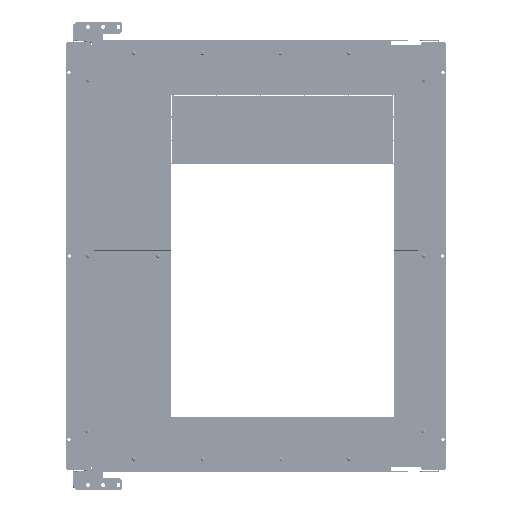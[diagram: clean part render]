
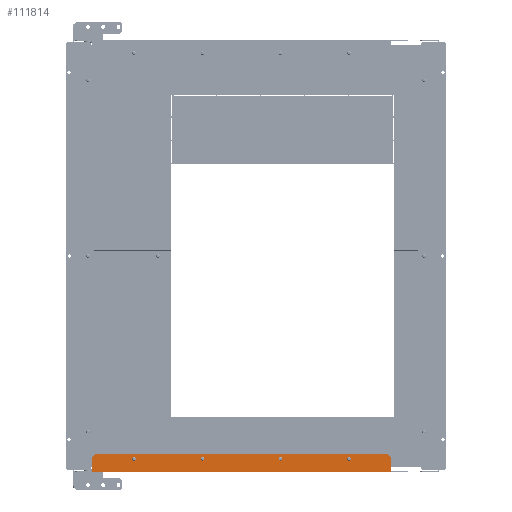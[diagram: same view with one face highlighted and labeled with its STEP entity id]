
A CAD part, left-side view. The second image highlights one B-rep face of the part: STEP entity #111814.
In plain terms, the highlighted planar face has unit normal (-1, 0, 0).
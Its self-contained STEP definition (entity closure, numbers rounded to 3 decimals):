
#1155 = DIRECTION ( 'NONE',  ( 1., 0., 0. ) ) ;
#2260 = AXIS2_PLACEMENT_3D ( 'NONE', #16897, #17458, #27356 ) ;
#3025 = VECTOR ( 'NONE', #58283, 1000. ) ;
#4673 = ORIENTED_EDGE ( 'NONE', *, *, #97777, .T. ) ;
#4838 = EDGE_CURVE ( 'NONE', #8660, #7920, #63025, .T. ) ;
#5697 = AXIS2_PLACEMENT_3D ( 'NONE', #82629, #1155, #107730 ) ;
#6283 = VERTEX_POINT ( 'NONE', #25080 ) ;
#6367 = CARTESIAN_POINT ( 'NONE',  ( -158., -496., -329.5 ) ) ;
#6769 = ORIENTED_EDGE ( 'NONE', *, *, #62353, .T. ) ;
#6876 = CARTESIAN_POINT ( 'NONE',  ( -158., -6.5, -351.5 ) ) ;
#7404 = CARTESIAN_POINT ( 'NONE',  ( -158., -427.5, -332. ) ) ;
#7920 = VERTEX_POINT ( 'NONE', #82823 ) ;
#8330 = EDGE_CURVE ( 'NONE', #54205, #26136, #10398, .T. ) ;
#8660 = VERTEX_POINT ( 'NONE', #78259 ) ;
#9324 = EDGE_LOOP ( 'NONE', ( #36339, #24867 ) ) ;
#9906 = FACE_OUTER_BOUND ( 'NONE', #34763, .T. ) ;
#10398 = LINE ( 'NONE', #53455, #70279 ) ;
#11552 = EDGE_CURVE ( 'NONE', #7920, #8660, #84803, .T. ) ;
#12235 = ORIENTED_EDGE ( 'NONE', *, *, #8330, .T. ) ;
#12660 = DIRECTION ( 'NONE',  ( -1., 0., 0. ) ) ;
#14099 = VECTOR ( 'NONE', #58027, 1000. ) ;
#14764 = AXIS2_PLACEMENT_3D ( 'NONE', #78320, #33496, #103365 ) ;
#15185 = LINE ( 'NONE', #41372, #44814 ) ;
#16021 = CARTESIAN_POINT ( 'NONE',  ( -158., -116.625, -219.375 ) ) ;
#16157 = CARTESIAN_POINT ( 'NONE',  ( -158., -189.383, -329.665 ) ) ;
#16897 = CARTESIAN_POINT ( 'NONE',  ( -158., -251.25, -354. ) ) ;
#17419 = EDGE_CURVE ( 'NONE', #35375, #61278, #66767, .T. ) ;
#17458 = DIRECTION ( 'NONE',  ( 1., 0., 0. ) ) ;
#19113 = VERTEX_POINT ( 'NONE', #16157 ) ;
#19271 = VECTOR ( 'NONE', #49215, 1000. ) ;
#20078 = EDGE_CURVE ( 'NONE', #78578, #61278, #43793, .T. ) ;
#21149 = EDGE_LOOP ( 'NONE', ( #61150, #75082 ) ) ;
#21730 = EDGE_CURVE ( 'NONE', #89817, #35375, #64609, .T. ) ;
#23370 = ORIENTED_EDGE ( 'NONE', *, *, #4838, .F. ) ;
#24867 = ORIENTED_EDGE ( 'NONE', *, *, #104512, .T. ) ;
#25080 = CARTESIAN_POINT ( 'NONE',  ( -158., -185.617, -334.335 ) ) ;
#25410 = DIRECTION ( 'NONE',  ( 0., 1., 0. ) ) ;
#25797 = ORIENTED_EDGE ( 'NONE', *, *, #20078, .F. ) ;
#26136 = VERTEX_POINT ( 'NONE', #6367 ) ;
#27356 = DIRECTION ( 'NONE',  ( 0., 0., 1. ) ) ;
#29013 = ORIENTED_EDGE ( 'NONE', *, *, #71225, .T. ) ;
#29447 = DIRECTION ( 'NONE',  ( 0., 1., 0. ) ) ;
#30660 = VERTEX_POINT ( 'NONE', #40898 ) ;
#31121 = CARTESIAN_POINT ( 'NONE',  ( -158., -6.5, -354. ) ) ;
#32503 = CARTESIAN_POINT ( 'NONE',  ( -158., -75., -332. ) ) ;
#32649 = EDGE_CURVE ( 'NONE', #74631, #95618, #91217, .T. ) ;
#32913 = DIRECTION ( 'NONE',  ( 0., 1., 0. ) ) ;
#33345 = AXIS2_PLACEMENT_3D ( 'NONE', #32503, #101240, #101815 ) ;
#33496 = DIRECTION ( 'NONE',  ( 1., 0., 0. ) ) ;
#33639 = EDGE_CURVE ( 'NONE', #54205, #78578, #15185, .T. ) ;
#34332 = CARTESIAN_POINT ( 'NONE',  ( -158., -11.5, -324.5 ) ) ;
#34598 = VERTEX_POINT ( 'NONE', #111566 ) ;
#34718 = EDGE_LOOP ( 'NONE', ( #29013, #6769 ) ) ;
#34763 = EDGE_LOOP ( 'NONE', ( #25797, #72431, #12235, #84721, #4673, #43807, #36089, #107643 ) ) ;
#34938 = FACE_BOUND ( 'NONE', #9324, .T. ) ;
#35155 = CARTESIAN_POINT ( 'NONE',  ( -158., -6.5, -329.5 ) ) ;
#35375 = VERTEX_POINT ( 'NONE', #6876 ) ;
#36089 = ORIENTED_EDGE ( 'NONE', *, *, #21730, .T. ) ;
#36339 = ORIENTED_EDGE ( 'NONE', *, *, #103776, .T. ) ;
#39910 = VERTEX_POINT ( 'NONE', #34332 ) ;
#40165 = VECTOR ( 'NONE', #55879, 1000. ) ;
#40898 = CARTESIAN_POINT ( 'NONE',  ( -158., -425.293, -334.032 ) ) ;
#41372 = CARTESIAN_POINT ( 'NONE',  ( -158., -496., -351.5 ) ) ;
#41641 = LINE ( 'NONE', #112710, #106643 ) ;
#41897 = CIRCLE ( 'NONE', #107019, 3. ) ;
#43227 = DIRECTION ( 'NONE',  ( 0., 1., 0. ) ) ;
#43793 = LINE ( 'NONE', #61292, #103856 ) ;
#43807 = ORIENTED_EDGE ( 'NONE', *, *, #97808, .T. ) ;
#44814 = VECTOR ( 'NONE', #50683, 1000. ) ;
#46272 = CIRCLE ( 'NONE', #62978, 3. ) ;
#47414 = EDGE_LOOP ( 'NONE', ( #63285, #23370 ) ) ;
#47566 = CARTESIAN_POINT ( 'NONE',  ( -158., -75., -332. ) ) ;
#47668 = AXIS2_PLACEMENT_3D ( 'NONE', #47566, #12660, #84209 ) ;
#49215 = DIRECTION ( 'NONE',  ( 0., 0.707, -0.707 ) ) ;
#50683 = DIRECTION ( 'NONE',  ( 0., 0., -1. ) ) ;
#51734 = CIRCLE ( 'NONE', #53553, 3. ) ;
#53455 = CARTESIAN_POINT ( 'NONE',  ( -158., -496., -354. ) ) ;
#53553 = AXIS2_PLACEMENT_3D ( 'NONE', #88954, #54010, #89532 ) ;
#53702 = CARTESIAN_POINT ( 'NONE',  ( -158., -312.907, -334.149 ) ) ;
#53705 = EDGE_CURVE ( 'NONE', #26136, #72224, #59450, .T. ) ;
#53894 = CARTESIAN_POINT ( 'NONE',  ( -158., -315., -332. ) ) ;
#54010 = DIRECTION ( 'NONE',  ( 1., 0., 0. ) ) ;
#54205 = VERTEX_POINT ( 'NONE', #115198 ) ;
#55832 = EDGE_CURVE ( 'NONE', #95618, #74631, #92689, .T. ) ;
#55879 = DIRECTION ( 'NONE',  ( 0., 0., -1. ) ) ;
#58027 = DIRECTION ( 'NONE',  ( 0., 0., -1. ) ) ;
#58283 = DIRECTION ( 'NONE',  ( 0., 0.707, 0.707 ) ) ;
#58590 = CARTESIAN_POINT ( 'NONE',  ( -158., -6.5, -351.5 ) ) ;
#59450 = LINE ( 'NONE', #96104, #3025 ) ;
#61150 = ORIENTED_EDGE ( 'NONE', *, *, #55832, .T. ) ;
#61278 = VERTEX_POINT ( 'NONE', #31121 ) ;
#61292 = CARTESIAN_POINT ( 'NONE',  ( -158., -251.25, -354. ) ) ;
#62353 = EDGE_CURVE ( 'NONE', #30660, #34598, #41897, .T. ) ;
#62978 = AXIS2_PLACEMENT_3D ( 'NONE', #7404, #69664, #25410 ) ;
#63025 = CIRCLE ( 'NONE', #33345, 3. ) ;
#63285 = ORIENTED_EDGE ( 'NONE', *, *, #11552, .F. ) ;
#64609 = LINE ( 'NONE', #91957, #40165 ) ;
#64972 = CIRCLE ( 'NONE', #14764, 3. ) ;
#66767 = LINE ( 'NONE', #58590, #14099 ) ;
#69012 = LINE ( 'NONE', #16021, #19271 ) ;
#69664 = DIRECTION ( 'NONE',  ( 1., 0., 0. ) ) ;
#70279 = VECTOR ( 'NONE', #97721, 1000. ) ;
#71225 = EDGE_CURVE ( 'NONE', #34598, #30660, #46272, .T. ) ;
#72224 = VERTEX_POINT ( 'NONE', #110655 ) ;
#72431 = ORIENTED_EDGE ( 'NONE', *, *, #33639, .F. ) ;
#74631 = VERTEX_POINT ( 'NONE', #53702 ) ;
#75082 = ORIENTED_EDGE ( 'NONE', *, *, #32649, .T. ) ;
#78259 = CARTESIAN_POINT ( 'NONE',  ( -158., -76.571, -329.444 ) ) ;
#78320 = CARTESIAN_POINT ( 'NONE',  ( -158., -187.5, -332. ) ) ;
#78578 = VERTEX_POINT ( 'NONE', #105323 ) ;
#79193 = FACE_BOUND ( 'NONE', #21149, .T. ) ;
#82629 = CARTESIAN_POINT ( 'NONE',  ( -158., -315., -332. ) ) ;
#82823 = CARTESIAN_POINT ( 'NONE',  ( -158., -73.429, -334.556 ) ) ;
#83461 = AXIS2_PLACEMENT_3D ( 'NONE', #53894, #89415, #106330 ) ;
#84209 = DIRECTION ( 'NONE',  ( 0., 1., 0. ) ) ;
#84721 = ORIENTED_EDGE ( 'NONE', *, *, #53705, .T. ) ;
#84803 = CIRCLE ( 'NONE', #47668, 3. ) ;
#88954 = CARTESIAN_POINT ( 'NONE',  ( -158., -187.5, -332. ) ) ;
#89415 = DIRECTION ( 'NONE',  ( 1., 0., 0. ) ) ;
#89532 = DIRECTION ( 'NONE',  ( 0., 1., 0. ) ) ;
#89817 = VERTEX_POINT ( 'NONE', #35155 ) ;
#89999 = CARTESIAN_POINT ( 'NONE',  ( -158., -427.5, -332. ) ) ;
#91217 = CIRCLE ( 'NONE', #5697, 3. ) ;
#91957 = CARTESIAN_POINT ( 'NONE',  ( -158., -6.5, -354. ) ) ;
#92689 = CIRCLE ( 'NONE', #83461, 3. ) ;
#95618 = VERTEX_POINT ( 'NONE', #101343 ) ;
#96104 = CARTESIAN_POINT ( 'NONE',  ( -158., -385.875, -219.375 ) ) ;
#96684 = FACE_BOUND ( 'NONE', #34718, .T. ) ;
#97240 = FACE_BOUND ( 'NONE', #47414, .T. ) ;
#97721 = DIRECTION ( 'NONE',  ( 0., 0., 1. ) ) ;
#97777 = EDGE_CURVE ( 'NONE', #72224, #39910, #41641, .T. ) ;
#97808 = EDGE_CURVE ( 'NONE', #39910, #89817, #69012, .T. ) ;
#101240 = DIRECTION ( 'NONE',  ( -1., 0., 0. ) ) ;
#101343 = CARTESIAN_POINT ( 'NONE',  ( -158., -317.093, -329.851 ) ) ;
#101815 = DIRECTION ( 'NONE',  ( 0., 1., 0. ) ) ;
#103365 = DIRECTION ( 'NONE',  ( 0., 1., 0. ) ) ;
#103776 = EDGE_CURVE ( 'NONE', #19113, #6283, #51734, .T. ) ;
#103856 = VECTOR ( 'NONE', #43227, 1000. ) ;
#104512 = EDGE_CURVE ( 'NONE', #6283, #19113, #64972, .T. ) ;
#105323 = CARTESIAN_POINT ( 'NONE',  ( -158., -496., -354. ) ) ;
#106330 = DIRECTION ( 'NONE',  ( 0., 1., 0. ) ) ;
#106643 = VECTOR ( 'NONE', #32913, 1000. ) ;
#107019 = AXIS2_PLACEMENT_3D ( 'NONE', #89999, #109230, #29447 ) ;
#107141 = PLANE ( 'NONE',  #2260 ) ;
#107643 = ORIENTED_EDGE ( 'NONE', *, *, #17419, .T. ) ;
#107730 = DIRECTION ( 'NONE',  ( 0., 1., 0. ) ) ;
#109230 = DIRECTION ( 'NONE',  ( 1., 0., 0. ) ) ;
#110655 = CARTESIAN_POINT ( 'NONE',  ( -158., -491., -324.5 ) ) ;
#111566 = CARTESIAN_POINT ( 'NONE',  ( -158., -429.707, -329.968 ) ) ;
#111814 = ADVANCED_FACE ( 'NONE', ( #97240, #96684, #79193, #34938, #9906 ), #107141, .F. ) ;
#112710 = CARTESIAN_POINT ( 'NONE',  ( -158., -251.25, -324.5 ) ) ;
#115198 = CARTESIAN_POINT ( 'NONE',  ( -158., -496., -351.5 ) ) ;
